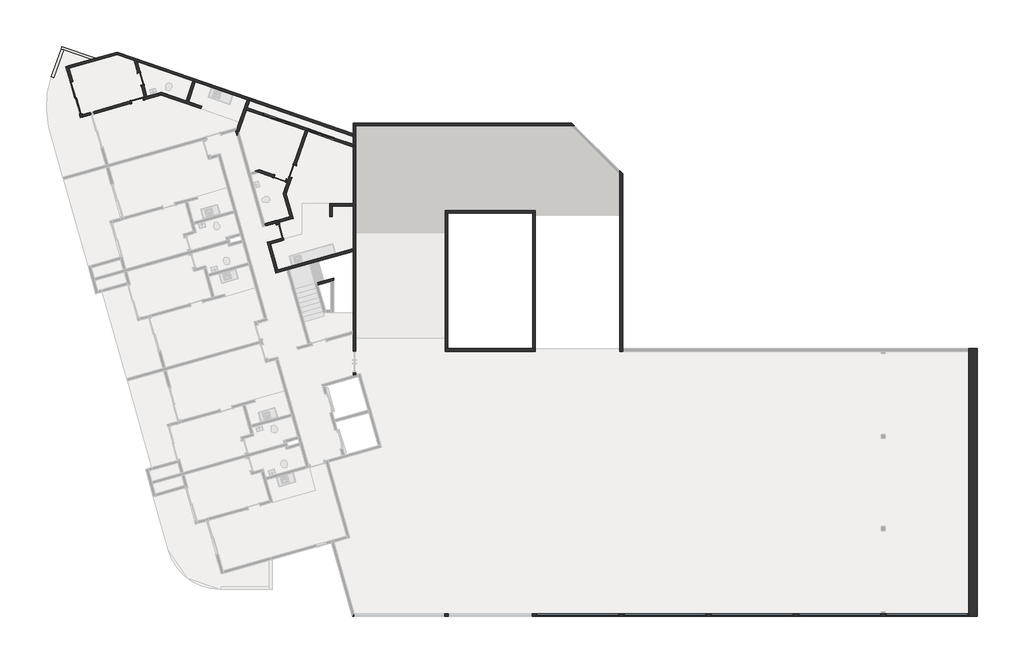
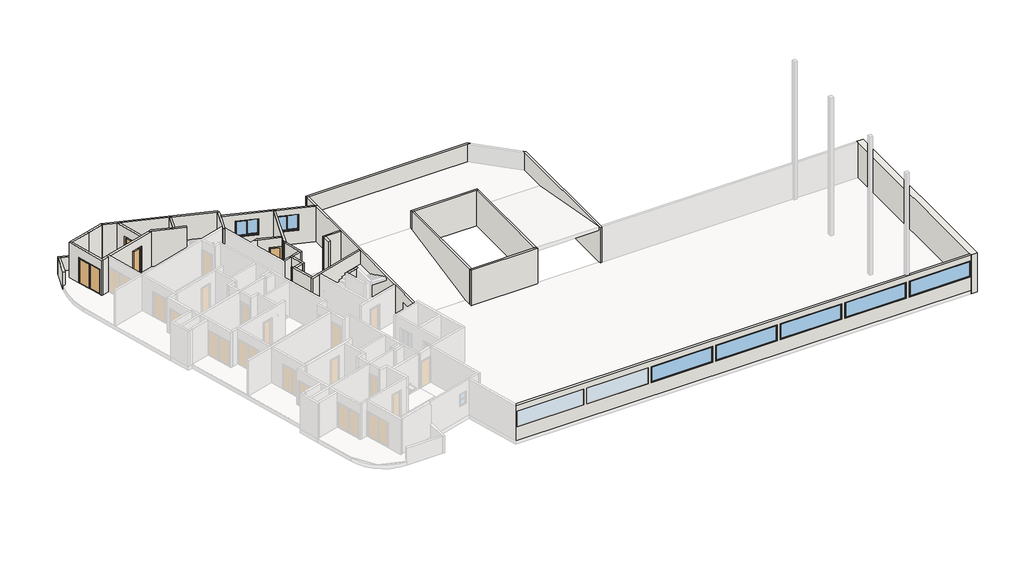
# One storey, part 3 of 4: 36 walls, 7 windows, 6 doors.
"""IFC4 building model written with IfcOpenShell, lengths in millimetres."""

from ifc_helpers import new_model, si_unit, frame, origin, place, context, project, spatial, polyline, outline, extrude, faceted_brep, transform, mapped, element, save
from components import p2_80cm_9d4be4ef, p3_70cm_ef4d15e3, p3_70cm_0a698c7c, p4_correr_200cm_eaaa0877, jx_160cm_e9e36a0c, m_fixo1_jf_4_75m_a83b1cd6

model = new_model("IFC4")

# Units and contexts
model_context = context("Model", 3, world=origin())
ifc_project = project(units=[si_unit("LENGTHUNIT", "METRE", prefix="MILLI")], contexts=[model_context])

# Site, building, storey
site = spatial("IfcSite", under=ifc_project)
building = spatial("IfcBuilding", under=site)
storey = spatial("IfcBuildingStorey", under=building, Name="Garagem 4", Elevation=39150.0)

# Doors
placement = place(None, origin())
p2_80cm_shape = p2_80cm_9d4be4ef(model_context)
element("IfcDoor", 1, ObjectType="M_Folha única1 : P2 - 80CM", at=placement, inside=storey, context=model_context, shape_type="MappedRepresentation", body=[
    mapped(p2_80cm_shape, transform((-79349.4097406, 25479.1041247, 39150.0), x_axis=(-0.27176796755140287, 0.962362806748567, 0.0), y_axis=(-0.962362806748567, -0.27176796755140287, 0.0), z_axis=(0.0, 0.0, 1.0))),
])
p3_70cm_shape = p3_70cm_ef4d15e3(model_context)
element("IfcDoor", 2, ObjectType="M_Folha única1 : P3 - 70CM", at=placement, inside=storey, context=model_context, shape_type="MappedRepresentation", body=[
    mapped(p3_70cm_shape, transform((-87513.806232, 32980.5300491, 39150.0), x_axis=(0.9623628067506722, 0.2717679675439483, 0.0), y_axis=(-0.2717679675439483, 0.9623628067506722, 0.0), z_axis=(0.0, 0.0, 1.0))),
])
p3_70cm_2_shape = p3_70cm_0a698c7c(model_context)
element("IfcDoor", 3, ObjectType="M_Folha única1 : P3 - 70CM", at=placement, inside=storey, context=model_context, shape_type="MappedRepresentation", body=[
    mapped(p3_70cm_2_shape, transform((-87314.304722, 34205.8663896, 39150.0), x_axis=(-0.2717679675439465, 0.9623628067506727, 0.0), y_axis=(-0.9623628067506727, -0.2717679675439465, 0.0), z_axis=(0.0, 0.0, 1.0))),
])
element("IfcDoor", 4, ObjectType="M_Folha única1 : P3 - 70CM", at=placement, inside=storey, context=model_context, shape_type="MappedRepresentation", body=[
    mapped(p3_70cm_2_shape, transform((-79346.1223746, 28509.6973665, 39150.0), x_axis=(0.9449109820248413, -0.32732741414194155, 0.0), y_axis=(0.32732741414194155, 0.9449109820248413, 0.0), z_axis=(0.0, 0.0, 1.0))),
])
element("IfcDoor", 5, ObjectType="M_Folha única1 : P3 - 70CM", at=placement, inside=storey, context=model_context, shape_type="MappedRepresentation", body=[
    mapped(p3_70cm_2_shape, transform((-78626.5662556, 28921.8732895, 39150.0), x_axis=(-0.32732741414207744, -0.9449109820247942, 0.0), y_axis=(0.9449109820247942, -0.32732741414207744, 0.0), z_axis=(0.0, 0.0, 1.0))),
])
p4_correr_200cm_shape = p4_correr_200cm_eaaa0877(model_context)
element("IfcDoor", 6, ObjectType="Porta de correr dupla envidraçada sem revestimento : P4 - CORRER - 200CM", at=placement, inside=storey, context=model_context, shape_type="MappedRepresentation", body=[
    mapped(p4_correr_200cm_shape, transform((-91005.8131296, 33111.4415743, 39150.0), x_axis=(0.2717679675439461, -0.9623628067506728, 0.0), y_axis=(0.9623628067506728, 0.2717679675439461, 0.0), z_axis=(0.0, 0.0, 1.0))),
])

# Walls
element("IfcWall", 7, ObjectType="Básica .15 - Externa", at=placement, inside=storey, context=model_context, shape_type="Brep", body=[
    faceted_brep([(-88662.6343714, 35591.588263, 39150.0), (-87688.240739, 35254.0477389, 39150.0), (-87515.4733556, 35194.1992432, 39150.0), (-84326.6881589, 34089.5694606, 39150.0), (-84184.9515116, 34040.4703485, 39150.0), (-81226.8582774, 33015.7547641, 39150.0), (-81156.3583355, 32991.3328194, 39150.0), (-81156.3583355, 32991.3328194, 40450.0), (-81085.1216301, 32966.655652, 40450.0), (-81085.1216301, 32966.655652, 41750.0), (-81156.3583355, 32991.3328194, 41750.0), (-81156.3583355, 32991.3328194, 42050.0), (-81226.8582774, 33015.7547641, 42050.0), (-84184.9515116, 34040.4703485, 42050.0), (-84326.6881589, 34089.5694606, 42050.0), (-87515.4733556, 35194.1992432, 42050.0), (-87688.240739, 35254.0477389, 42050.0), (-88662.6343714, 35591.588263, 42050.0), (-88658.0562773, 35748.7474739, 39150.0), (-88658.0562773, 35748.7474739, 42050.0), (-81107.2592234, 33133.0694667, 42050.0), (-81107.2592234, 33133.0694667, 41750.0), (-81036.022518, 33108.3922993, 41750.0), (-81036.022518, 33108.3922993, 40450.0), (-81107.2592234, 33133.0694667, 40450.0), (-81107.2592234, 33133.0694667, 39150.0)], [[[0, 1, 2, 3, 4, 5, 6, 7, 8, 9, 10, 11, 12, 13, 14, 15, 16, 17]], [[18, 19, 20, 21, 22, 23, 24, 25]], [[6, 5, 4, 3, 2, 1, 0, 18, 25]], [[17, 16, 15, 14, 13, 12, 11, 20, 19]], [[0, 17, 19, 18]], [[7, 6, 25, 24]], [[23, 8, 7, 24]], [[11, 10, 21, 20]], [[21, 10, 9, 22]], [[9, 8, 23, 22]]]),
])
element("IfcWall", 8, ObjectType="Básica .15 -  Interna", at=placement, inside=storey, context=model_context, shape_type="Brep", body=[
    faceted_brep([(-81789.2550074, 30934.0017027, 39150.0), (-81703.3880158, 31181.8778654, 39150.0), (-81272.8781344, 32424.6503839, 39150.0), (-81223.7790223, 32566.3870312, 39150.0), (-81085.1216301, 32966.655652, 39150.0), (-81085.1216301, 32966.655652, 40450.0), (-81085.1216301, 32966.655652, 41750.0), (-81085.1216301, 32966.655652, 42050.0), (-81223.7790223, 32566.3870312, 42050.0), (-81272.8781344, 32424.6503839, 42050.0), (-81703.3880158, 31181.8778654, 42050.0), (-81789.2550074, 30934.0017027, 42050.0), (-81860.5472267, 31186.4559595, 39150.0), (-81860.5472267, 31186.4559595, 42050.0), (-81845.4155775, 31230.1371819, 42050.0), (-81785.5670817, 31402.9045654, 42050.0), (-81226.8582774, 33015.7547641, 42050.0), (-81226.8582774, 33015.7547641, 39150.0), (-81785.5670817, 31402.9045654, 39150.0), (-81845.4155775, 31230.1371819, 39150.0), (-81156.3583355, 32991.3328194, 39150.0), (-81156.3583355, 32991.3328194, 42050.0)], [[[0, 1, 2, 3, 4, 5, 6, 7, 8, 9, 10, 11]], [[12, 13, 14, 15, 16, 17, 18, 19]], [[4, 3, 2, 1, 0, 12, 19, 18, 17, 20]], [[11, 10, 9, 8, 7, 21, 16, 15, 14, 13]], [[0, 11, 13, 12]], [[4, 20, 17, 16, 21, 7, 6, 5]]]),
])
element("IfcWall", 9, ObjectType="Básica .15 -  Interna", at=placement, inside=storey, context=model_context, shape_type="Brep", body=[
    faceted_brep([(-91449.9950574, 34960.3135045, 42050.0), (-91409.2298622, 34815.9590835, 42050.0), (-90661.8679515, 32169.4613651, 42050.0), (-90621.1027564, 32025.1069441, 42050.0), (-90621.1027564, 32025.1069441, 39150.0), (-90661.8679515, 32169.4613651, 39150.0), (-90661.8679515, 32169.4613651, 41250.0), (-91205.4038866, 34094.1869786, 41250.0), (-91205.4038866, 34094.1869786, 39150.0), (-91409.2298622, 34815.9590835, 39150.0), (-91449.9950574, 34960.3135045, 39150.0), (-90765.4571774, 31984.341749, 42050.0), (-91594.3494784, 34919.5483093, 42050.0), (-91594.3494784, 34919.5483093, 39150.0), (-91349.7583076, 34053.4217835, 39150.0), (-91349.7583076, 34053.4217835, 41250.0), (-90806.2223725, 32128.69617, 41250.0), (-90806.2223725, 32128.69617, 39150.0), (-90765.4571774, 31984.341749, 39150.0)], [[[0, 1, 2, 3, 4, 5, 6, 7, 8, 9, 10]], [[11, 12, 13, 14, 15, 16, 17, 18]], [[4, 18, 17, 5]], [[13, 10, 9, 8, 14]], [[3, 2, 1, 0, 12, 11]], [[4, 3, 11, 18]], [[16, 6, 5, 17]], [[6, 16, 15, 7]], [[7, 15, 14, 8]], [[0, 10, 13, 12]]]),
])
element("IfcWall", 10, ObjectType="Básica .15 - Externa", at=placement, inside=storey, context=model_context, shape_type="Brep", body=[
    faceted_brep([(-91871.4376954, 35923.0920443, 38850.0), (-91729.7010481, 35873.9929322, 38850.0), (-90151.0501028, 35327.1311202, 38850.0), (-90151.0501028, 35327.1311202, 40250.0), (-91729.7010481, 35873.9929322, 40250.0), (-91871.4376954, 35923.0920443, 40250.0), (-91822.3385833, 36064.8286916, 38850.0), (-91822.3385833, 36064.8286916, 40250.0), (-89898.595846, 35398.4233395, 40250.0), (-89898.595846, 35398.4233395, 38850.0)], [[[0, 1, 2, 3, 4, 5]], [[6, 7, 8, 9]], [[2, 1, 0, 6, 9]], [[5, 4, 3, 8, 7]], [[0, 5, 7, 6]], [[3, 2, 9, 8]]]),
])
element("IfcWall", 11, ObjectType="Básica .15 - Externa", at=placement, inside=storey, context=model_context, shape_type="SweptSolid", body=[
    extrude(outline(polyline([(-91729.7010481, 35873.9929322), (-92280.2794148, 34284.6132387), (-92422.0160621, 34333.7123509), (-91871.4376954, 35923.0920443), (-91729.7010481, 35873.9929322)])), frame((0.0, 0.0, 38850.0), z_axis=(0.0, 0.0, 1.0), x_axis=(1.0, 0.0, 0.0)), (0.0, 0.0, 1.0), 1400.0),
])
element("IfcWall", 12, ObjectType="Básica .15 -  Interna", at=placement, inside=storey, context=model_context, shape_type="Brep", body=[
    faceted_brep([(-79570.9048554, 23078.5590693, 39150.0), (-78948.2127609, 23254.4051886, 39150.0), (-78803.8582924, 23295.1703972, 39150.0), (-75147.8282189, 24327.6207947, 39150.0), (-75147.8282189, 24327.6207947, 42050.0), (-78803.8582924, 23295.1703972, 42050.0), (-78948.2127609, 23254.4051886, 42050.0), (-79570.9048554, 23078.5590693, 42050.0), (-79611.6700506, 23222.9134903, 39150.0), (-79611.6700506, 23222.9134903, 42050.0), (-79467.3156296, 23263.6786855, 42050.0), (-75147.8282189, 24483.4871675, 42050.0), (-75147.8282189, 24483.4871675, 39150.0), (-79467.3156296, 23263.6786855, 39150.0)], [[[0, 1, 2, 3, 4, 5, 6, 7]], [[8, 9, 10, 11, 12, 13]], [[3, 2, 1, 0, 8, 13, 12]], [[7, 6, 5, 4, 11, 10, 9]], [[0, 7, 9, 8]], [[4, 3, 12, 11]]]),
])
element("IfcWall", 13, ObjectType="Básica .15 -  Interna", at=placement, inside=storey, context=model_context, shape_type="Brep", body=[
    faceted_brep([(-75147.8282189, 17222.3804954, 42050.0), (-75147.8282189, 19601.4666134, 42050.0), (-75147.8282189, 19757.3329862, 42050.0), (-75147.8282189, 24327.6207947, 42050.0), (-75147.8282189, 24483.4871675, 42050.0), (-75147.8282189, 26910.8243598, 42050.0), (-75147.8282189, 27060.8243598, 42050.0), (-75147.8282189, 30302.8666514, 42050.0), (-75147.8282189, 30356.258394, 42050.0), (-75147.8282189, 30356.258394, 39150.0), (-75147.8282189, 30302.8666514, 39150.0), (-75147.8282189, 27060.8243598, 39150.0), (-75147.8282189, 26910.8243598, 39150.0), (-75147.8282189, 24483.4871675, 39150.0), (-75147.8282189, 24327.6207947, 39150.0), (-75147.8282189, 19757.3329862, 39150.0), (-75147.8282189, 19601.4666134, 39150.0), (-75147.8282189, 18602.5140353, 39150.0), (-75147.8282189, 18602.5140353, 41250.0), (-75147.8282189, 17402.5140353, 41250.0), (-75147.8282189, 17402.5140353, 39150.0), (-75147.8282189, 17222.3804954, 39150.0), (-74997.8282189, 30356.258394, 42050.0), (-74997.8282189, 17264.7399828, 42050.0), (-74997.8282189, 17264.7399828, 39150.0), (-74997.8282189, 17402.5140353, 39150.0), (-74997.8282189, 17402.5140353, 41250.0), (-74997.8282189, 18602.5140353, 41250.0), (-74997.8282189, 18602.5140353, 39150.0), (-74997.8282189, 30356.258394, 39150.0)], [[[0, 1, 2, 3, 4, 5, 6, 7, 8, 9, 10, 11, 12, 13, 14, 15, 16, 17, 18, 19, 20, 21]], [[22, 23, 24, 25, 26, 27, 28, 29]], [[24, 21, 20, 25]], [[9, 29, 28, 17, 16, 15, 14, 13, 12, 11, 10]], [[8, 7, 6, 5, 4, 3, 2, 1, 0, 23, 22]], [[9, 8, 22, 29]], [[0, 21, 24, 23]], [[19, 26, 25, 20]], [[26, 19, 18, 27]], [[27, 18, 17, 28]]]),
])
element("IfcWall", 14, ObjectType="Básica .15 -  Interna", at=placement, inside=storey, context=model_context, shape_type="Brep", body=[
    faceted_brep([(-80073.6755954, 24858.9302618, 39150.0), (-79611.6700506, 23222.9134903, 39150.0), (-79611.6700506, 23222.9134903, 42050.0), (-80073.6755954, 24858.9302618, 42050.0), (-79929.3211744, 24899.695457, 39150.0), (-79929.3211744, 24899.695457, 42050.0), (-79888.5559793, 24755.3410359, 42050.0), (-79467.3156296, 23263.6786855, 42050.0), (-79467.3156296, 23263.6786855, 39150.0), (-79888.5559793, 24755.3410359, 39150.0)], [[[0, 1, 2, 3]], [[4, 5, 6, 7, 8, 9]], [[1, 0, 4, 9, 8]], [[3, 2, 7, 6, 5]], [[0, 3, 5, 4]], [[2, 1, 8, 7]]]),
])
element("IfcWall", 15, ObjectType="Básica .15 -  Interna", at=placement, inside=storey, context=model_context, shape_type="Brep", body=[
    faceted_brep([(-79888.5559793, 24755.3410359, 39150.0), (-79272.1145689, 24929.4219834, 39150.0), (-79272.1145689, 24929.4219834, 42050.0), (-79888.5559793, 24755.3410359, 42050.0), (-79929.3211744, 24899.695457, 39150.0), (-79929.3211744, 24899.695457, 42050.0), (-79312.8797641, 25073.7764044, 42050.0), (-79312.8797641, 25073.7764044, 41250.0), (-79312.8797641, 25073.7764044, 39150.0)], [[[0, 1, 2, 3]], [[4, 5, 6, 7, 8]], [[1, 0, 4, 8]], [[3, 2, 6, 5]], [[0, 3, 5, 4]], [[2, 1, 8, 7, 6]]]),
])
element("IfcWall", 16, ObjectType="Básica .15 -  Interna", at=placement, inside=storey, context=model_context, shape_type="Brep", body=[
    faceted_brep([(-79598.23613, 26084.2573515, 39150.0), (-79557.4709349, 25939.9029305, 39150.0), (-79530.2941381, 25843.6666498, 39150.0), (-79530.2941381, 25843.6666498, 41250.0), (-79312.8797641, 25073.7764044, 41250.0), (-79312.8797641, 25073.7764044, 39150.0), (-79272.1145689, 24929.4219834, 39150.0), (-79272.1145689, 24929.4219834, 42050.0), (-79312.8797641, 25073.7764044, 42050.0), (-79557.4709349, 25939.9029305, 42050.0), (-79598.23613, 26084.2573515, 42050.0), (-79385.9397171, 25884.4318449, 41250.0), (-79385.9397171, 25884.4318449, 39150.0), (-79413.1165138, 25980.6681256, 39150.0), (-79453.881709, 26125.0225466, 39150.0), (-79453.881709, 26125.0225466, 42050.0), (-79413.1165138, 25980.6681256, 42050.0), (-79127.7601479, 24970.1871785, 42050.0), (-79127.7601479, 24970.1871785, 39150.0), (-79168.5253431, 25114.5415995, 39150.0), (-79168.5253431, 25114.5415995, 41250.0)], [[[0, 1, 2, 3, 4, 5, 6, 7, 8, 9, 10]], [[11, 12, 13, 14, 15, 16, 17, 18, 19, 20]], [[19, 18, 6, 5]], [[14, 13, 12, 2, 1, 0]], [[10, 9, 8, 7, 17, 16, 15]], [[7, 6, 18, 17]], [[0, 10, 15, 14]], [[3, 2, 12, 11]], [[4, 3, 11, 20]], [[5, 4, 20, 19]]]),
])
element("IfcWall", 17, ObjectType="Básica .15 - Externa", at=placement, inside=storey, context=model_context, shape_type="SweptSolid", body=[
    extrude(outline(polyline([(-89921.2674906, 35392.0209445), (-88658.0562773, 35748.7474739), (-88662.6343714, 35591.588263), (-89880.5022955, 35247.6665235), (-89921.2674906, 35392.0209445)])), frame((0.0, 0.0, 39150.0), z_axis=(0.0, 0.0, 1.0), x_axis=(1.0, 0.0, 0.0)), (0.0, 0.0, 1.0), 2900.0),
])
element("IfcWall", 18, ObjectType="Básica .15 -  Interna", at=placement, inside=storey, context=model_context, shape_type="Brep", body=[
    faceted_brep([(-90184.5077758, 32304.2662473, 39150.0), (-90661.8679515, 32169.4613651, 39150.0), (-90661.8679515, 32169.4613651, 41250.0), (-90661.8679515, 32169.4613651, 42050.0), (-90184.5077758, 32304.2662473, 42050.0), (-90143.7425806, 32159.9118263, 39150.0), (-90143.7425806, 32159.9118263, 41250.0), (-90143.7425806, 32159.9118263, 42050.0), (-90621.1027564, 32025.1069441, 42050.0), (-90621.1027564, 32025.1069441, 39150.0)], [[[0, 1, 2, 3, 4]], [[5, 6, 7, 8, 9]], [[1, 0, 5, 9]], [[4, 3, 8, 7]], [[0, 4, 7, 6, 5]], [[3, 2, 1, 9, 8]]]),
])
element("IfcWall", 19, ObjectType="Básica .15 -  Interna", at=placement, inside=storey, context=model_context, shape_type="SweptSolid", body=[
    extrude(outline(polyline([(-79557.4709349, 25939.9029305), (-80173.9123452, 25765.821983), (-80214.6775403, 25910.176404), (-79598.23613, 26084.2573515), (-79557.4709349, 25939.9029305)])), frame((0.0, 0.0, 39150.0), z_axis=(0.0, 0.0, 1.0), x_axis=(1.0, 0.0, 0.0)), (0.0, 0.0, 1.0), 2900.0),
])
element("IfcWall", 20, ObjectType="Básica .15 -  Interna", at=placement, inside=storey, context=model_context, shape_type="Brep", body=[
    faceted_brep([(-81272.8781344, 32424.6503839, 39150.0), (-77897.5766162, 31255.4093243, 39150.0), (-77755.8399689, 31206.3102121, 39150.0), (-75147.8282189, 30302.8666514, 39150.0), (-75147.8282189, 30302.8666514, 42050.0), (-77755.8399689, 31206.3102121, 42050.0), (-77897.5766162, 31255.4093243, 42050.0), (-81272.8781344, 32424.6503839, 42050.0), (-78829.2985897, 31578.1679228, 40250.0), (-80341.1561609, 32101.8917854, 40250.0), (-80341.1561609, 32101.8917854, 41550.0), (-78829.2985897, 31578.1679228, 41550.0), (-76243.9823976, 30682.5863495, 40250.0), (-77755.8399689, 31206.3102121, 40250.0), (-77755.8399689, 31206.3102121, 41550.0), (-76243.9823976, 30682.5863495, 41550.0), (-81223.7790223, 32566.3870312, 39150.0), (-81223.7790223, 32566.3870312, 42050.0), (-75147.8282189, 30461.6117638, 42050.0), (-75147.8282189, 30461.6117638, 39150.0), (-78780.1994776, 31719.9045701, 40250.0), (-78780.1994776, 31719.9045701, 41550.0), (-80292.0570488, 32243.6284327, 41550.0), (-80292.0570488, 32243.6284327, 40250.0), (-76194.8832855, 30824.3229968, 40250.0), (-76194.8832855, 30824.3229968, 41550.0), (-77706.7408568, 31348.0468595, 41550.0), (-77706.7408568, 31348.0468595, 40250.0), (-75147.8282189, 30356.258394, 39150.0), (-75147.8282189, 30356.258394, 42050.0)], [[[0, 1, 2, 3, 4, 5, 6, 7], [8, 9, 10, 11], [12, 13, 14, 15]], [[16, 17, 18, 19], [20, 21, 22, 23], [24, 25, 26, 27]], [[3, 2, 1, 0, 16, 19, 28]], [[7, 6, 5, 4, 29, 18, 17]], [[0, 7, 17, 16]], [[21, 20, 8, 11]], [[22, 21, 11, 10]], [[23, 22, 10, 9]], [[20, 23, 9, 8]], [[25, 24, 12, 15]], [[26, 25, 15, 14]], [[27, 26, 14, 13]], [[24, 27, 13, 12]], [[4, 3, 28, 19, 18, 29]]]),
])
element("IfcWall", 21, ObjectType="Básica .15 - Externa", at=placement, inside=storey, context=model_context, shape_type="Brep", body=[
    faceted_brep([(-81156.3583355, 32991.3328194, 40450.0), (-81156.3583355, 32991.3328194, 39150.0), (-81156.3583355, 32991.3328194, 38850.0), (-81085.1216301, 32966.655652, 38850.0), (-75147.8282189, 30909.9128092, 38850.0), (-75147.8282189, 30909.9128092, 40450.0), (-81085.1216301, 32966.655652, 40450.0), (-81107.2592234, 33133.0694667, 38850.0), (-81107.2592234, 33133.0694667, 39150.0), (-81107.2592234, 33133.0694667, 40450.0), (-81036.022518, 33108.3922993, 40450.0), (-75147.8282189, 31068.6579216, 40450.0), (-75147.8282189, 31068.6579216, 38850.0), (-81036.022518, 33108.3922993, 38850.0)], [[[0, 1, 2, 3, 4, 5, 6]], [[7, 8, 9, 10, 11, 12, 13]], [[4, 3, 2, 7, 13, 12]], [[0, 6, 5, 11, 10, 9]], [[0, 9, 8, 7, 2, 1]], [[4, 12, 11, 5]]]),
])
element("IfcWall", 22, ObjectType="Básica .15 -  Interna", at=placement, inside=storey, context=model_context, shape_type="SweptSolid", body=[
    extrude(outline(polyline([(-91449.9950574, 34960.3135045), (-89921.2674906, 35392.0209445), (-89880.5022955, 35247.6665235), (-91409.2298622, 34815.9590835), (-91449.9950574, 34960.3135045)])), frame((0.0, 0.0, 39150.0), z_axis=(0.0, 0.0, 1.0), x_axis=(1.0, 0.0, 0.0)), (0.0, 0.0, 1.0), 2900.0),
])
element("IfcWall", 23, ObjectType="Básica .15 -  Interna", at=placement, inside=storey, context=model_context, shape_type="Brep", body=[
    faceted_brep([(-83821.815623, 32644.7152387, 39150.0), (-84577.7444086, 32906.57717, 39150.0), (-84719.4810559, 32955.6762822, 39150.0), (-86137.8721095, 33447.0223292, 39150.0), (-86137.8721095, 33447.0223292, 42050.0), (-84719.4810559, 32955.6762822, 42050.0), (-84577.7444086, 32906.57717, 42050.0), (-83821.815623, 32644.7152387, 42050.0), (-83870.9147351, 32502.9785914, 39150.0), (-83870.9147351, 32502.9785914, 42050.0), (-86142.4502035, 33289.8631183, 42050.0), (-86390.3263662, 33375.7301099, 42050.0), (-86390.3263662, 33375.7301099, 39150.0), (-86142.4502035, 33289.8631183, 39150.0)], [[[0, 1, 2, 3, 4, 5, 6, 7]], [[8, 9, 10, 11, 12, 13]], [[3, 2, 1, 0, 8, 13, 12]], [[7, 6, 5, 4, 11, 10, 9]], [[0, 7, 9, 8]], [[4, 3, 12, 11]]]),
])
element("IfcWall", 24, ObjectType="Básica .15 -  Interna", at=placement, inside=storey, context=model_context, shape_type="Brep", body=[
    faceted_brep([(-86390.3263662, 33375.7301099, 39150.0), (-86956.7711455, 33215.7680402, 39150.0), (-87101.1255666, 33175.002845, 39150.0), (-87197.3618472, 33147.8260483, 39150.0), (-87197.3618472, 33147.8260483, 41250.0), (-87871.015812, 32957.588471, 41250.0), (-87871.015812, 32957.588471, 39150.0), (-90040.1533547, 32345.0314424, 39150.0), (-90040.1533547, 32345.0314424, 42050.0), (-87101.1255666, 33175.002845, 42050.0), (-86956.7711455, 33215.7680402, 42050.0), (-86390.3263662, 33375.7301099, 42050.0), (-87156.5966521, 33003.4716273, 41250.0), (-87156.5966521, 33003.4716273, 39150.0), (-86142.4502035, 33289.8631183, 39150.0), (-86142.4502035, 33289.8631183, 42050.0), (-89999.3881596, 32200.6770214, 42050.0), (-89999.3881596, 32200.6770214, 41250.0), (-89999.3881596, 32200.6770214, 39150.0), (-87830.2506168, 32813.23405, 39150.0), (-87830.2506168, 32813.23405, 41250.0)], [[[0, 1, 2, 3, 4, 5, 6, 7, 8, 9, 10, 11]], [[12, 13, 14, 15, 16, 17, 18, 19, 20]], [[19, 18, 7, 6]], [[14, 13, 3, 2, 1, 0]], [[11, 10, 9, 8, 16, 15]], [[4, 3, 13, 12]], [[5, 4, 12, 20]], [[6, 5, 20, 19]], [[0, 11, 15, 14]], [[8, 7, 18, 17, 16]]]),
])
element("IfcWall", 25, ObjectType="Básica .15 -  Interna", at=placement, inside=storey, context=model_context, shape_type="SweptSolid", body=[
    extrude(outline(polyline([(-84184.9515116, 34040.4703485), (-84577.7444086, 32906.57717), (-84719.4810559, 32955.6762822), (-84326.6881589, 34089.5694606), (-84184.9515116, 34040.4703485)])), frame((0.0, 0.0, 39150.0), z_axis=(0.0, 0.0, 1.0), x_axis=(1.0, 0.0, 0.0)), (0.0, 0.0, 1.0), 2900.0),
])
element("IfcWall", 26, ObjectType="Básica .15 -  Interna", at=placement, inside=storey, context=model_context, shape_type="Brep", body=[
    faceted_brep([(-87337.2463001, 34563.0759696, 41250.0), (-87337.2463001, 34563.0759696, 39150.0), (-87515.4733556, 35194.1992432, 39150.0), (-87515.4733556, 35194.1992432, 42050.0), (-86956.7711455, 33215.7680402, 42050.0), (-86956.7711455, 33215.7680402, 39150.0), (-87147.0087228, 33889.4220048, 39150.0), (-87147.0087228, 33889.4220048, 41250.0), (-87688.240739, 35254.0477389, 39150.0), (-87481.6007211, 34522.3107744, 39150.0), (-87481.6007211, 34522.3107744, 41250.0), (-87291.3631438, 33848.6568097, 41250.0), (-87291.3631438, 33848.6568097, 39150.0), (-87101.1255666, 33175.002845, 39150.0), (-87101.1255666, 33175.002845, 42050.0), (-87688.240739, 35254.0477389, 42050.0)], [[[0, 1, 2, 3, 4, 5, 6, 7]], [[8, 9, 10, 11, 12, 13, 14, 15]], [[6, 5, 13, 12]], [[2, 1, 9, 8]], [[4, 3, 15, 14]], [[10, 9, 1, 0]], [[11, 10, 0, 7]], [[12, 11, 7, 6]], [[5, 4, 14, 13]], [[3, 2, 8, 15]]]),
])
element("IfcWall", 27, ObjectType="Básica .15 -  Interna", at=placement, inside=storey, context=model_context, shape_type="Brep", body=[
    faceted_brep([(-76493.6479314, 26910.8243598, 39150.0), (-76343.6479314, 26910.8243598, 39150.0), (-75147.8282189, 26910.8243598, 39150.0), (-75147.8282189, 26910.8243598, 42050.0), (-76343.6479314, 26910.8243598, 42050.0), (-76493.6479314, 26910.8243598, 42050.0), (-76493.6479314, 27060.8243598, 39150.0), (-76493.6479314, 27060.8243598, 42050.0), (-75147.8282189, 27060.8243598, 42050.0), (-75147.8282189, 27060.8243598, 39150.0)], [[[0, 1, 2, 3, 4, 5]], [[6, 7, 8, 9]], [[2, 1, 0, 6, 9]], [[5, 4, 3, 8, 7]], [[0, 5, 7, 6]], [[3, 2, 9, 8]]]),
])
element("IfcWall", 28, ObjectType="Básica .15 -  Interna", at=placement, inside=storey, context=model_context, shape_type="SweptSolid", body=[
    extrude(outline(polyline([(-76343.6479314, 26910.8243598), (-76343.6479314, 26310.8243598), (-76493.6479314, 26310.8243598), (-76493.6479314, 26910.8243598), (-76343.6479314, 26910.8243598)])), frame((0.0, 0.0, 39150.0), z_axis=(0.0, 0.0, 1.0), x_axis=(1.0, 0.0, 0.0)), (0.0, 0.0, 1.0), 2900.0),
])
element("IfcWall", 29, ObjectType="Básica .15 -  Interna", at=placement, inside=storey, context=model_context, shape_type="Brep", body=[
    faceted_brep([(-78877.464657, 28426.7218055, 39150.0), (-78990.8539749, 28466.0010952, 39150.0), (-78990.8539749, 28466.0010952, 41250.0), (-79652.2916623, 28695.1302851, 41250.0), (-79652.2916623, 28695.1302851, 39150.0), (-80525.6718652, 28997.6786614, 39150.0), (-80525.6718652, 28997.6786614, 42050.0), (-78877.464657, 28426.7218055, 42050.0), (-79039.953087, 28324.2644479, 41250.0), (-79039.953087, 28324.2644479, 39150.0), (-78926.5637691, 28284.9851582, 39150.0), (-78926.5637691, 28284.9851582, 42050.0), (-80530.2499593, 28840.5194505, 42050.0), (-80778.126122, 28926.3864421, 42050.0), (-80778.126122, 28926.3864421, 39150.0), (-80530.2499593, 28840.5194505, 39150.0), (-79701.3907744, 28553.3936378, 39150.0), (-79701.3907744, 28553.3936378, 41250.0)], [[[0, 1, 2, 3, 4, 5, 6, 7]], [[8, 9, 10, 11, 12, 13, 14, 15, 16, 17]], [[10, 9, 1, 0]], [[16, 15, 14, 5, 4]], [[7, 6, 13, 12, 11]], [[2, 1, 9, 8]], [[3, 2, 8, 17]], [[4, 3, 17, 16]], [[6, 5, 14, 13]], [[0, 7, 11, 10]]]),
])
element("IfcWall", 30, ObjectType="Básica .15 -  Interna", at=placement, inside=storey, context=model_context, shape_type="Brep", body=[
    faceted_brep([(-79146.9727346, 27648.7205404, 39150.0), (-78771.1333302, 26317.8283554, 39150.0), (-78730.3681351, 26173.4739343, 39150.0), (-78730.3681351, 26173.4739343, 42050.0), (-78771.1333302, 26317.8283554, 42050.0), (-79146.9727346, 27648.7205404, 42050.0), (-79061.105743, 27896.5967032, 39150.0), (-79061.105743, 27896.5967032, 42050.0), (-78989.8135237, 27644.1424464, 42050.0), (-78586.013714, 26214.2391295, 42050.0), (-78586.013714, 26214.2391295, 39150.0), (-78989.8135237, 27644.1424464, 39150.0)], [[[0, 1, 2, 3, 4, 5]], [[6, 7, 8, 9, 10, 11]], [[2, 1, 0, 6, 11, 10]], [[5, 4, 3, 9, 8, 7]], [[0, 5, 7, 6]], [[3, 2, 10, 9]]]),
])
element("IfcWall", 31, ObjectType="Básica .15 -  Interna", at=placement, inside=storey, context=model_context, shape_type="Brep", body=[
    faceted_brep([(-78811.9991742, 28615.7040019, 41250.0), (-78811.9991742, 28615.7040019, 39150.0), (-78877.464657, 28426.7218055, 39150.0), (-78926.5637691, 28284.9851582, 39150.0), (-79061.105743, 27896.5967032, 39150.0), (-79061.105743, 27896.5967032, 42050.0), (-78926.5637691, 28284.9851582, 42050.0), (-78877.464657, 28426.7218055, 42050.0), (-77897.5766162, 31255.4093243, 42050.0), (-77897.5766162, 31255.4093243, 39150.0), (-78582.8699843, 29277.1416893, 39150.0), (-78582.8699843, 29277.1416893, 41250.0), (-78989.8135237, 27644.1424464, 39150.0), (-78670.2625269, 28566.6048898, 39150.0), (-78670.2625269, 28566.6048898, 41250.0), (-78441.133337, 29228.0425772, 41250.0), (-78441.133337, 29228.0425772, 39150.0), (-77755.8399689, 31206.3102121, 39150.0), (-77755.8399689, 31206.3102121, 40250.0), (-77755.8399689, 31206.3102121, 41550.0), (-77755.8399689, 31206.3102121, 42050.0), (-78989.8135237, 27644.1424464, 42050.0)], [[[0, 1, 2, 3, 4, 5, 6, 7, 8, 9, 10, 11]], [[12, 13, 14, 15, 16, 17, 18, 19, 20, 21]], [[10, 9, 17, 16]], [[4, 3, 2, 1, 13, 12]], [[8, 7, 6, 5, 21, 20]], [[14, 13, 1, 0]], [[15, 14, 0, 11]], [[16, 15, 11, 10]], [[5, 4, 12, 21]], [[9, 8, 20, 19, 18, 17]]]),
])
element("IfcWall", 32, ObjectType="Básica .15 -  Interna", at=placement, inside=storey, context=model_context, shape_type="SweptSolid", body=[
    extrude(outline(polyline([(-78730.3681351, 26173.4739343), (-79413.1165138, 25980.6681256), (-79453.881709, 26125.0225466), (-78771.1333302, 26317.8283554), (-78730.3681351, 26173.4739343)])), frame((0.0, 0.0, 39150.0), z_axis=(0.0, 0.0, 1.0), x_axis=(1.0, 0.0, 0.0)), (0.0, 0.0, 1.0), 2900.0),
])
element("IfcWall", 33, ObjectType="Básica .15 -  Interna", at=placement, inside=storey, context=model_context, shape_type="Brep", body=[
    faceted_brep([(-77152.5348621, 22408.8989724, 39150.0), (-76425.2862396, 22614.2714979, 39150.0), (-76275.2862396, 22656.6309852, 39150.0), (-76275.2862396, 22656.6309852, 42050.0), (-76425.2862396, 22614.2714979, 42050.0), (-77152.5348621, 22408.8989724, 42050.0), (-77193.3000572, 22553.2533934, 39150.0), (-77193.3000572, 22553.2533934, 42050.0), (-76275.2862396, 22812.497358, 42050.0), (-76275.2862396, 22812.497358, 39150.0)], [[[0, 1, 2, 3, 4, 5]], [[6, 7, 8, 9]], [[2, 1, 0, 6, 9]], [[5, 4, 3, 8, 7]], [[0, 5, 7, 6]], [[3, 2, 9, 8]]]),
])
element("IfcWall", 34, ObjectType="Contenção 50cm - Externa", at=placement, inside=storey, context=model_context, shape_type="Brep", body=[
    faceted_brep([(-39909.7628043, 18752.5140353, 38850.0), (-39909.7628043, 3411.0495751, 38850.0), (-39909.7628043, 3411.0495751, 39150.0), (-39909.7628043, 3411.0495751, 42050.0), (-39909.7628043, 3561.0495751, 42050.0), (-39909.7628043, 18602.5140353, 42050.0), (-39909.7628043, 18752.5140353, 42050.0), (-39909.7628043, 18752.5140353, 39150.0), (-39409.7628043, 18752.5140353, 38850.0), (-39409.7628043, 18752.5140353, 42050.0), (-39409.7628043, 3411.0495751, 42050.0), (-39409.7628043, 3411.0495751, 38850.0)], [[[0, 1, 2, 3, 4, 5, 6, 7]], [[8, 9, 10, 11]], [[1, 0, 8, 11]], [[6, 5, 4, 3, 10, 9]], [[0, 7, 6, 9, 8]], [[3, 2, 1, 11, 10]]]),
])
element("IfcWall", 35, ObjectType="Básica .15 - Externa", at=placement, inside=storey, context=model_context, shape_type="Brep", body=[
    faceted_brep([(-59878.6137209, 28940.3430413, 39150.0), (-59878.6137209, 28729.2690021, 39150.0), (-59878.6137209, 18602.5140353, 39150.0), (-59878.6137209, 18602.5140353, 42050.0), (-59878.6137209, 28729.2690021, 42050.0), (-59878.6137209, 28940.3430413, 42050.0), (-59728.6137209, 28791.8430413, 39150.0), (-59728.6137209, 28791.8430413, 42050.0), (-59728.6137209, 18752.5140353, 42050.0), (-59728.6137209, 18602.5140353, 42050.0), (-59728.6137209, 18602.5140353, 39150.0), (-59728.6137209, 18752.5140353, 39150.0)], [[[0, 1, 2, 3, 4, 5]], [[6, 7, 8, 9, 10, 11]], [[2, 1, 0, 6, 11, 10]], [[5, 4, 3, 9, 8, 7]], [[0, 5, 7, 6]], [[3, 2, 10, 9]]]),
])
element("IfcWall", 36, ObjectType="Básica .15 - Externa", at=placement, inside=storey, context=model_context, shape_type="Brep", body=[
    faceted_brep([(-75147.8282189, 31523.8506069, 39150.0), (-74997.8282189, 31523.8506069, 39150.0), (-62701.4234226, 31523.8506069, 39150.0), (-62488.2173225, 31523.8506069, 39150.0), (-62488.2173225, 31523.8506069, 42050.0), (-62701.4234226, 31523.8506069, 42050.0), (-74997.8282189, 31523.8506069, 42050.0), (-75147.8282189, 31523.8506069, 42050.0), (-75147.8282189, 31673.8506069, 39150.0), (-75147.8282189, 31673.8506069, 42050.0), (-62639.732474, 31673.8506069, 42050.0), (-62639.732474, 31673.8506069, 39150.0)], [[[0, 1, 2, 3, 4, 5, 6, 7]], [[8, 9, 10, 11]], [[3, 2, 1, 0, 8, 11]], [[7, 6, 5, 4, 10, 9]], [[4, 3, 11, 10]], [[0, 7, 9, 8]]]),
])
element("IfcWall", 37, ObjectType="Básica .15 - Externa", at=placement, inside=storey, context=model_context, shape_type="Brep", body=[
    faceted_brep([(-75195.6613336, 3411.0495751, 39150.0), (-44928.6137209, 3411.0495751, 39150.0), (-39909.7628043, 3411.0495751, 39150.0), (-39909.7628043, 3411.0495751, 42050.0), (-75195.6613336, 3411.0495751, 42050.0), (-44925.8696428, 3411.0495751, 40250.0), (-49675.8696428, 3411.0495751, 40250.0), (-49675.8696428, 3411.0495751, 41550.0), (-44925.8696428, 3411.0495751, 41550.0), (-59925.8696428, 3411.0495751, 40250.0), (-64675.8696428, 3411.0495751, 40250.0), (-64675.8696428, 3411.0495751, 41550.0), (-59925.8696428, 3411.0495751, 41550.0), (-49925.8696428, 3411.0495751, 40250.0), (-54675.8696428, 3411.0495751, 40250.0), (-54675.8696428, 3411.0495751, 41550.0), (-49925.8696428, 3411.0495751, 41550.0), (-54925.8696428, 3411.0495751, 40250.0), (-59675.8696428, 3411.0495751, 40250.0), (-59675.8696428, 3411.0495751, 41550.0), (-54925.8696428, 3411.0495751, 41550.0), (-64925.8696428, 3411.0495751, 40250.0), (-69675.8696428, 3411.0495751, 40250.0), (-69675.8696428, 3411.0495751, 41550.0), (-64925.8696428, 3411.0495751, 41550.0), (-69925.8696428, 3411.0495751, 40250.0), (-75075.8696428, 3411.0495751, 40250.0), (-75075.8696428, 3411.0495751, 41550.0), (-69925.8696428, 3411.0495751, 41550.0), (-39925.8696428, 3411.0495751, 40250.0), (-44675.8696428, 3411.0495751, 40250.0), (-44675.8696428, 3411.0495751, 41550.0), (-39925.8696428, 3411.0495751, 41550.0), (-75082.1544481, 3561.0495751, 39150.0), (-75082.1544481, 3561.0495751, 42050.0), (-39909.7628043, 3561.0495751, 42050.0), (-39909.7628043, 3561.0495751, 39150.0), (-44928.6137209, 3561.0495751, 39150.0), (-44925.8696428, 3561.0495751, 40250.0), (-44925.8696428, 3561.0495751, 41550.0), (-49675.8696428, 3561.0495751, 41550.0), (-49675.8696428, 3561.0495751, 40250.0), (-59925.8696428, 3561.0495751, 40250.0), (-59925.8696428, 3561.0495751, 41550.0), (-64675.8696428, 3561.0495751, 41550.0), (-64675.8696428, 3561.0495751, 40250.0), (-49925.8696428, 3561.0495751, 40250.0), (-49925.8696428, 3561.0495751, 41550.0), (-54675.8696428, 3561.0495751, 41550.0), (-54675.8696428, 3561.0495751, 40250.0), (-54925.8696428, 3561.0495751, 40250.0), (-54925.8696428, 3561.0495751, 41550.0), (-59675.8696428, 3561.0495751, 41550.0), (-59675.8696428, 3561.0495751, 40250.0), (-64925.8696428, 3561.0495751, 40250.0), (-64925.8696428, 3561.0495751, 41550.0), (-69675.8696428, 3561.0495751, 41550.0), (-69675.8696428, 3561.0495751, 40250.0), (-69925.8696428, 3561.0495751, 40250.0), (-69925.8696428, 3561.0495751, 41550.0), (-75075.8696428, 3561.0495751, 41550.0), (-75075.8696428, 3561.0495751, 40250.0), (-39925.8696428, 3561.0495751, 40250.0), (-39925.8696428, 3561.0495751, 41550.0), (-44675.8696428, 3561.0495751, 41550.0), (-44675.8696428, 3561.0495751, 40250.0)], [[[0, 1, 2, 3, 4], [5, 6, 7, 8], [9, 10, 11, 12], [13, 14, 15, 16], [17, 18, 19, 20], [21, 22, 23, 24], [25, 26, 27, 28], [29, 30, 31, 32]], [[33, 34, 35, 36, 37], [38, 39, 40, 41], [42, 43, 44, 45], [46, 47, 48, 49], [50, 51, 52, 53], [54, 55, 56, 57], [58, 59, 60, 61], [62, 63, 64, 65]], [[2, 1, 0, 33, 37, 36]], [[4, 3, 35, 34]], [[3, 2, 36, 35]], [[39, 38, 5, 8]], [[40, 39, 8, 7]], [[41, 40, 7, 6]], [[38, 41, 6, 5]], [[43, 42, 9, 12]], [[44, 43, 12, 11]], [[45, 44, 11, 10]], [[42, 45, 10, 9]], [[47, 46, 13, 16]], [[48, 47, 16, 15]], [[49, 48, 15, 14]], [[46, 49, 14, 13]], [[51, 50, 17, 20]], [[52, 51, 20, 19]], [[53, 52, 19, 18]], [[50, 53, 18, 17]], [[55, 54, 21, 24]], [[56, 55, 24, 23]], [[57, 56, 23, 22]], [[54, 57, 22, 21]], [[59, 58, 25, 28]], [[60, 59, 28, 27]], [[61, 60, 27, 26]], [[58, 61, 26, 25]], [[63, 62, 29, 32]], [[64, 63, 32, 31]], [[65, 64, 31, 30]], [[62, 65, 30, 29]], [[0, 4, 34, 33]]]),
])
element("IfcWall", 38, ObjectType="Básica .15 -  Interna", at=placement, inside=storey, context=model_context, shape_type="Brep", body=[
    faceted_brep([(-69878.6137209, 18602.5140353, 39150.0), (-64728.6137209, 18602.5140353, 39150.0), (-64728.6137209, 18602.5140353, 42050.0), (-69878.6137209, 18602.5140353, 42050.0), (-69878.6137209, 18752.5140353, 39150.0), (-69878.6137209, 18752.5140353, 42050.0), (-69728.6137209, 18752.5140353, 42050.0), (-64878.6137209, 18752.5140353, 42050.0), (-64728.6137209, 18752.5140353, 42050.0), (-64728.6137209, 18752.5140353, 39150.0), (-64878.6137209, 18752.5140353, 39150.0), (-69728.6137209, 18752.5140353, 39150.0)], [[[0, 1, 2, 3]], [[4, 5, 6, 7, 8, 9, 10, 11]], [[1, 0, 4, 11, 10, 9]], [[3, 2, 8, 7, 6, 5]], [[0, 3, 5, 4]], [[2, 1, 9, 8]]]),
])
element("IfcWall", 39, ObjectType="Básica .15 -  Interna", at=placement, inside=storey, context=model_context, shape_type="Brep", body=[
    faceted_brep([(-69878.6137209, 26523.5266097, 39150.0), (-69728.6137209, 26523.5266097, 39150.0), (-64878.6137209, 26523.5266097, 39150.0), (-64728.6137209, 26523.5266097, 39150.0), (-64728.6137209, 26523.5266097, 42050.0), (-64878.6137209, 26523.5266097, 42050.0), (-69728.6137209, 26523.5266097, 42050.0), (-69878.6137209, 26523.5266097, 42050.0), (-69878.6137209, 26673.5266097, 39150.0), (-69878.6137209, 26673.5266097, 42050.0), (-64728.6137209, 26673.5266097, 42050.0), (-64728.6137209, 26673.5266097, 39150.0)], [[[0, 1, 2, 3, 4, 5, 6, 7]], [[8, 9, 10, 11]], [[3, 2, 1, 0, 8, 11]], [[7, 6, 5, 4, 10, 9]], [[4, 3, 11, 10]], [[0, 7, 9, 8]]]),
])
element("IfcWall", 40, ObjectType="Básica .15 -  Interna", at=placement, inside=storey, context=model_context, shape_type="SweptSolid", body=[
    extrude(outline(polyline([(-69728.6137209, 26523.5266097), (-69728.6137209, 18752.5140353), (-69878.6137209, 18752.5140353), (-69878.6137209, 26523.5266097), (-69728.6137209, 26523.5266097)])), frame((0.0, 0.0, 39150.0), z_axis=(0.0, 0.0, 1.0), x_axis=(1.0, 0.0, 0.0)), (0.0, 0.0, 1.0), 2900.0),
])
element("IfcWall", 41, ObjectType="Básica .15 -  Interna", at=placement, inside=storey, context=model_context, shape_type="SweptSolid", body=[
    extrude(outline(polyline([(-64728.6137209, 26523.5266097), (-64728.6137209, 18752.5140353), (-64878.6137209, 18752.5140353), (-64878.6137209, 26523.5266097), (-64728.6137209, 26523.5266097)])), frame((0.0, 0.0, 39150.0), z_axis=(0.0, 0.0, 1.0), x_axis=(1.0, 0.0, 0.0)), (0.0, 0.0, 1.0), 2900.0),
])
element("IfcWall", 42, ObjectType="Básica .15 - Externa", at=placement, inside=storey, context=model_context, shape_type="Brep", body=[
    faceted_brep([(-74997.8282189, 30356.258394, 39150.0), (-74997.8282189, 31523.8506069, 39150.0), (-74997.8282189, 31523.8506069, 42050.0), (-74997.8282189, 30356.258394, 42050.0), (-75147.8282189, 30356.258394, 39150.0), (-75147.8282189, 30356.258394, 42050.0), (-75147.8282189, 30461.6117638, 42050.0), (-75147.8282189, 31523.8506069, 42050.0), (-75147.8282189, 31523.8506069, 39150.0), (-75147.8282189, 30461.6117638, 39150.0)], [[[0, 1, 2, 3]], [[4, 5, 6, 7, 8, 9]], [[1, 0, 4, 9, 8]], [[3, 2, 7, 6, 5]], [[0, 3, 5, 4]], [[2, 1, 8, 7]]]),
])

# Windows
jx_160cm_shape = jx_160cm_e9e36a0c(model_context)
element("IfcWindow", 43, ObjectType="Janela de correr - 2 Painéis : JX - 160CM", at=placement, inside=storey, context=model_context, shape_type="MappedRepresentation", body=[
    mapped(jx_160cm_shape, transform((-79560.6778192, 31910.8981777, 39600.0), x_axis=(-0.9449109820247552, 0.3273274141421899, 0.0), y_axis=(-0.3273274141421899, -0.9449109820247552, 0.0), z_axis=(0.0, 0.0, 1.0))),
])
element("IfcWindow", 44, ObjectType="Janela de correr - 2 Painéis : JX - 160CM", at=placement, inside=storey, context=model_context, shape_type="MappedRepresentation", body=[
    mapped(jx_160cm_shape, transform((-76975.3616272, 31015.3166045, 39600.0), x_axis=(-0.9449109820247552, 0.3273274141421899, 0.0), y_axis=(-0.3273274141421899, -0.9449109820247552, 0.0), z_axis=(0.0, 0.0, 1.0))),
])
m_fixo1_jf_4_75m_shape = m_fixo1_jf_4_75m_a83b1cd6(model_context)
element("IfcWindow", 45, ObjectType="M_Fixo1 : JF - 4.75m", at=placement, inside=storey, context=model_context, shape_type="MappedRepresentation", body=[
    mapped(m_fixo1_jf_4_75m_shape, transform((-57300.8696428, 3499.0495751, 39335.0), x_axis=(-1.0, 0.0, 0.0), y_axis=(0.0, -1.0, 0.0), z_axis=(0.0, 0.0, 1.0))),
])
element("IfcWindow", 46, ObjectType="M_Fixo1 : JF - 4.75m", at=placement, inside=storey, context=model_context, shape_type="MappedRepresentation", body=[
    mapped(m_fixo1_jf_4_75m_shape, transform((-52300.8696428, 3499.0495751, 39335.0), x_axis=(-1.0, 0.0, 0.0), y_axis=(0.0, -1.0, 0.0), z_axis=(0.0, 0.0, 1.0))),
])
element("IfcWindow", 47, ObjectType="M_Fixo1 : JF - 4.75m", at=placement, inside=storey, context=model_context, shape_type="MappedRepresentation", body=[
    mapped(m_fixo1_jf_4_75m_shape, transform((-62300.8696428, 3499.0495751, 39335.0), x_axis=(-1.0, 0.0, 0.0), y_axis=(0.0, -1.0, 0.0), z_axis=(0.0, 0.0, 1.0))),
])
element("IfcWindow", 48, ObjectType="M_Fixo1 : JF - 4.75m", at=placement, inside=storey, context=model_context, shape_type="MappedRepresentation", body=[
    mapped(m_fixo1_jf_4_75m_shape, transform((-47300.8696428, 3499.0495751, 39335.0), x_axis=(-1.0, 0.0, 0.0), y_axis=(0.0, -1.0, 0.0), z_axis=(0.0, 0.0, 1.0))),
])
element("IfcWindow", 49, ObjectType="M_Fixo1 : JF - 4.75m", at=placement, inside=storey, context=model_context, shape_type="MappedRepresentation", body=[
    mapped(m_fixo1_jf_4_75m_shape, transform((-42300.8696428, 3499.0495751, 39335.0), x_axis=(-1.0, 0.0, 0.0), y_axis=(0.0, -1.0, 0.0), z_axis=(0.0, 0.0, 1.0))),
])

save(model, "model.ifc")
